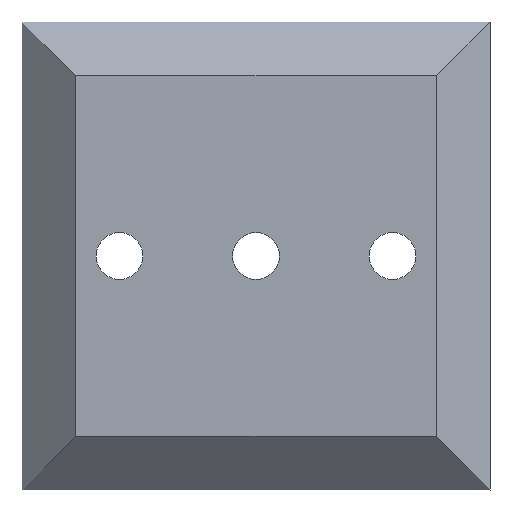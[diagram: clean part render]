
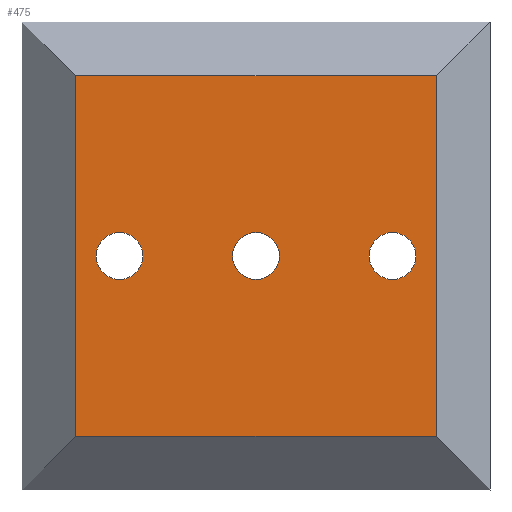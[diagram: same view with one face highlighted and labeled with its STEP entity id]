
A CAD part, front view. The second image highlights one B-rep face of the part: STEP entity #475.
In plain terms, the highlighted planar face has unit normal (0, -1, 0) as drawn and (0, 1, 0) by its records, which use the part's own axes.
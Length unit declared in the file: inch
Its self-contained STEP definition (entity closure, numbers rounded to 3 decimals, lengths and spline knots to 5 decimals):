
#3 = AXIS2_PLACEMENT_3D ( 'NONE', #60, #210, #262 ) ;
#9 = ORIENTED_EDGE ( 'NONE', *, *, #279, .F. ) ;
#11 = VECTOR ( 'NONE', #632, 39.37008 ) ;
#28 = CARTESIAN_POINT ( 'NONE',  ( 2.25, 0.475, -9.25 ) ) ;
#29 = EDGE_CURVE ( 'NONE', #267, #462, #191, .T. ) ;
#40 = CARTESIAN_POINT ( 'NONE',  ( 2.25, 0.475, -8.05 ) ) ;
#48 = CARTESIAN_POINT ( 'NONE',  ( 18.5, 0.475, -18.5 ) ) ;
#59 = ORIENTED_EDGE ( 'NONE', *, *, #417, .T. ) ;
#60 = CARTESIAN_POINT ( 'NONE',  ( 16.25, 0.475, -9.25 ) ) ;
#66 = ORIENTED_EDGE ( 'NONE', *, *, #208, .F. ) ;
#77 = EDGE_CURVE ( 'NONE', #83, #263, #314, .T. ) ;
#83 = VERTEX_POINT ( 'NONE', #484 ) ;
#87 = EDGE_CURVE ( 'NONE', #291, #114, #163, .T. ) ;
#92 = CARTESIAN_POINT ( 'NONE',  ( 0., 0.475, 0. ) ) ;
#102 = DIRECTION ( 'NONE',  ( 0., 0., -1. ) ) ;
#114 = VERTEX_POINT ( 'NONE', #40 ) ;
#127 = EDGE_LOOP ( 'NONE', ( #320, #59, #616, #548 ) ) ;
#131 = VERTEX_POINT ( 'NONE', #361 ) ;
#136 = VECTOR ( 'NONE', #712, 39.37008 ) ;
#139 = CARTESIAN_POINT ( 'NONE',  ( 18.5, 0.475, 0. ) ) ;
#151 = DIRECTION ( 'NONE',  ( 0., 0., 1. ) ) ;
#155 = DIRECTION ( 'NONE',  ( 0., 0., 1. ) ) ;
#160 = CARTESIAN_POINT ( 'NONE',  ( 9.25, 0.475, -8.05 ) ) ;
#163 = CIRCLE ( 'NONE', #226, 1.2 ) ;
#165 = CARTESIAN_POINT ( 'NONE',  ( 9.25, 0.475, -9.25 ) ) ;
#191 = LINE ( 'NONE', #352, #698 ) ;
#198 = FACE_BOUND ( 'NONE', #330, .T. ) ;
#202 = DIRECTION ( 'NONE',  ( 0., 0., -1. ) ) ;
#206 = DIRECTION ( 'NONE',  ( 0., 1., 0. ) ) ;
#208 = EDGE_CURVE ( 'NONE', #610, #271, #571, .T. ) ;
#210 = DIRECTION ( 'NONE',  ( 0., 1., 0. ) ) ;
#211 = EDGE_LOOP ( 'NONE', ( #9, #460 ) ) ;
#226 = AXIS2_PLACEMENT_3D ( 'NONE', #591, #706, #202 ) ;
#229 = EDGE_CURVE ( 'NONE', #263, #83, #702, .T. ) ;
#233 = LINE ( 'NONE', #525, #565 ) ;
#262 = DIRECTION ( 'NONE',  ( 0., 0., 1. ) ) ;
#263 = VERTEX_POINT ( 'NONE', #160 ) ;
#264 = CARTESIAN_POINT ( 'NONE',  ( 16.25, 0.475, -9.25 ) ) ;
#267 = VERTEX_POINT ( 'NONE', #48 ) ;
#268 = LINE ( 'NONE', #323, #136 ) ;
#271 = VERTEX_POINT ( 'NONE', #298 ) ;
#278 = CARTESIAN_POINT ( 'NONE',  ( 0., 0.475, 0. ) ) ;
#279 = EDGE_CURVE ( 'NONE', #114, #291, #621, .T. ) ;
#291 = VERTEX_POINT ( 'NONE', #551 ) ;
#298 = CARTESIAN_POINT ( 'NONE',  ( 16.25, 0.475, -8.05 ) ) ;
#304 = DIRECTION ( 'NONE',  ( -1., 0., 0. ) ) ;
#308 = CIRCLE ( 'NONE', #3, 1.2 ) ;
#314 = CIRCLE ( 'NONE', #445, 1.2 ) ;
#320 = ORIENTED_EDGE ( 'NONE', *, *, #444, .T. ) ;
#323 = CARTESIAN_POINT ( 'NONE',  ( 18.5, 0.475, 0. ) ) ;
#330 = EDGE_LOOP ( 'NONE', ( #553, #66 ) ) ;
#352 = CARTESIAN_POINT ( 'NONE',  ( 0., 0.475, -18.5 ) ) ;
#357 = DIRECTION ( 'NONE',  ( 0., 0., -1. ) ) ;
#361 = CARTESIAN_POINT ( 'NONE',  ( 0., 0.475, 0. ) ) ;
#364 = FACE_OUTER_BOUND ( 'NONE', #127, .T. ) ;
#384 = AXIS2_PLACEMENT_3D ( 'NONE', #165, #206, #694 ) ;
#390 = EDGE_LOOP ( 'NONE', ( #522, #563 ) ) ;
#406 = LINE ( 'NONE', #278, #11 ) ;
#410 = FACE_BOUND ( 'NONE', #211, .T. ) ;
#413 = AXIS2_PLACEMENT_3D ( 'NONE', #28, #701, #102 ) ;
#417 = EDGE_CURVE ( 'NONE', #131, #488, #233, .T. ) ;
#421 = AXIS2_PLACEMENT_3D ( 'NONE', #264, #603, #155 ) ;
#424 = CARTESIAN_POINT ( 'NONE',  ( 9.25, 0.475, -9.25 ) ) ;
#444 = EDGE_CURVE ( 'NONE', #462, #131, #406, .T. ) ;
#445 = AXIS2_PLACEMENT_3D ( 'NONE', #424, #648, #151 ) ;
#460 = ORIENTED_EDGE ( 'NONE', *, *, #87, .F. ) ;
#462 = VERTEX_POINT ( 'NONE', #699 ) ;
#475 = ADVANCED_FACE ( 'NONE', ( #410, #198, #705, #364 ), #531, .F. ) ;
#484 = CARTESIAN_POINT ( 'NONE',  ( 9.25, 0.475, -10.45 ) ) ;
#488 = VERTEX_POINT ( 'NONE', #139 ) ;
#522 = ORIENTED_EDGE ( 'NONE', *, *, #229, .F. ) ;
#525 = CARTESIAN_POINT ( 'NONE',  ( 0., 0.475, 0. ) ) ;
#531 = PLANE ( 'NONE',  #687 ) ;
#548 = ORIENTED_EDGE ( 'NONE', *, *, #29, .T. ) ;
#551 = CARTESIAN_POINT ( 'NONE',  ( 2.25, 0.475, -10.45 ) ) ;
#553 = ORIENTED_EDGE ( 'NONE', *, *, #566, .F. ) ;
#563 = ORIENTED_EDGE ( 'NONE', *, *, #77, .F. ) ;
#565 = VECTOR ( 'NONE', #620, 39.37008 ) ;
#566 = EDGE_CURVE ( 'NONE', #271, #610, #308, .T. ) ;
#571 = CIRCLE ( 'NONE', #421, 1.2 ) ;
#591 = CARTESIAN_POINT ( 'NONE',  ( 2.25, 0.475, -9.25 ) ) ;
#603 = DIRECTION ( 'NONE',  ( 0., 1., 0. ) ) ;
#610 = VERTEX_POINT ( 'NONE', #611 ) ;
#611 = CARTESIAN_POINT ( 'NONE',  ( 16.25, 0.475, -10.45 ) ) ;
#616 = ORIENTED_EDGE ( 'NONE', *, *, #649, .T. ) ;
#620 = DIRECTION ( 'NONE',  ( 1., 0., 0. ) ) ;
#621 = CIRCLE ( 'NONE', #413, 1.2 ) ;
#632 = DIRECTION ( 'NONE',  ( 0., 0., 1. ) ) ;
#634 = DIRECTION ( 'NONE',  ( 0., -1., 0. ) ) ;
#648 = DIRECTION ( 'NONE',  ( 0., 1., 0. ) ) ;
#649 = EDGE_CURVE ( 'NONE', #488, #267, #268, .T. ) ;
#687 = AXIS2_PLACEMENT_3D ( 'NONE', #92, #634, #357 ) ;
#694 = DIRECTION ( 'NONE',  ( 0., 0., 1. ) ) ;
#698 = VECTOR ( 'NONE', #304, 39.37008 ) ;
#699 = CARTESIAN_POINT ( 'NONE',  ( 0., 0.475, -18.5 ) ) ;
#701 = DIRECTION ( 'NONE',  ( 0., 1., 0. ) ) ;
#702 = CIRCLE ( 'NONE', #384, 1.2 ) ;
#705 = FACE_BOUND ( 'NONE', #390, .T. ) ;
#706 = DIRECTION ( 'NONE',  ( 0., 1., 0. ) ) ;
#712 = DIRECTION ( 'NONE',  ( 0., 0., -1. ) ) ;
